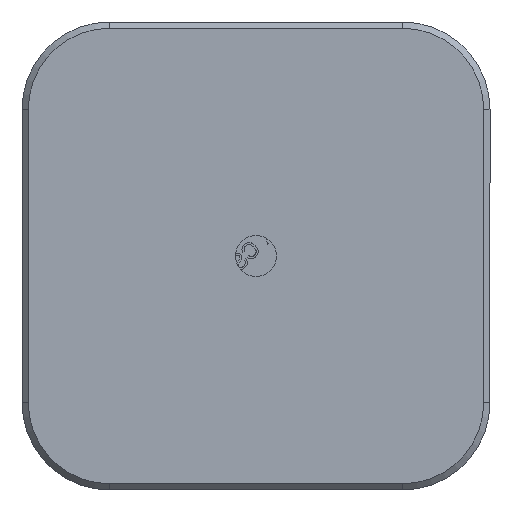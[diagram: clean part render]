
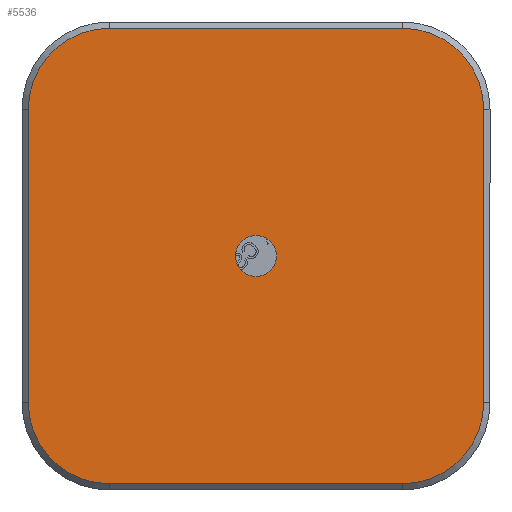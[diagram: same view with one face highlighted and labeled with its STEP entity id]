
A CAD part, front view. The second image highlights one B-rep face of the part: STEP entity #5536.
In plain terms, the highlighted planar face has unit normal (0, -1, 0).
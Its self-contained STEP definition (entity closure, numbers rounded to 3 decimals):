
#359 = CIRCLE ( 'NONE', #1858, 6.5 ) ;
#643 = EDGE_LOOP ( 'NONE', ( #1578, #1995, #6729, #5542, #2850, #13208, #7609, #3370 ) ) ;
#665 = CARTESIAN_POINT ( 'NONE',  ( 11.75, 0., 18.25 ) ) ;
#781 = DIRECTION ( 'NONE',  ( 0., 0., 1. ) ) ;
#810 = DIRECTION ( 'NONE',  ( 0., -1., 0. ) ) ;
#947 = CARTESIAN_POINT ( 'NONE',  ( -18.25, 0., 11.75 ) ) ;
#1578 = ORIENTED_EDGE ( 'NONE', *, *, #8722, .T. ) ;
#1678 = DIRECTION ( 'NONE',  ( 0., 0., 1. ) ) ;
#1858 = AXIS2_PLACEMENT_3D ( 'NONE', #3759, #12203, #1678 ) ;
#1910 = CARTESIAN_POINT ( 'NONE',  ( -11.75, 0., 11.75 ) ) ;
#1995 = ORIENTED_EDGE ( 'NONE', *, *, #7233, .T. ) ;
#2139 = EDGE_CURVE ( 'NONE', #5934, #12571, #5496, .T. ) ;
#2452 = DIRECTION ( 'NONE',  ( 0., 0., -1. ) ) ;
#2640 = PLANE ( 'NONE',  #10601 ) ;
#2730 = CARTESIAN_POINT ( 'NONE',  ( -11.75, 0., 18.25 ) ) ;
#2850 = ORIENTED_EDGE ( 'NONE', *, *, #4350, .T. ) ;
#2956 = LINE ( 'NONE', #11334, #10848 ) ;
#3139 = EDGE_CURVE ( 'NONE', #5554, #9483, #6946, .T. ) ;
#3370 = ORIENTED_EDGE ( 'NONE', *, *, #3139, .T. ) ;
#3759 = CARTESIAN_POINT ( 'NONE',  ( 11.75, 0., -11.75 ) ) ;
#3808 = VERTEX_POINT ( 'NONE', #7734 ) ;
#3887 = DIRECTION ( 'NONE',  ( 1., 0., 0. ) ) ;
#4031 = DIRECTION ( 'NONE',  ( -1., 0., 0. ) ) ;
#4083 = LINE ( 'NONE', #8199, #5701 ) ;
#4229 = CIRCLE ( 'NONE', #11772, 6.5 ) ;
#4350 = EDGE_CURVE ( 'NONE', #12571, #8653, #9939, .T. ) ;
#4559 = DIRECTION ( 'NONE',  ( 0., -1., 0. ) ) ;
#4634 = CARTESIAN_POINT ( 'NONE',  ( 0., 0., 0. ) ) ;
#4796 = DIRECTION ( 'NONE',  ( 0., 0., 1. ) ) ;
#4802 = VERTEX_POINT ( 'NONE', #665 ) ;
#5460 = CIRCLE ( 'NONE', #10880, 6.5 ) ;
#5496 = LINE ( 'NONE', #9540, #7745 ) ;
#5536 = ADVANCED_FACE ( 'NONE', ( #7760, #11892 ), #2640, .T. ) ;
#5542 = ORIENTED_EDGE ( 'NONE', *, *, #2139, .T. ) ;
#5554 = VERTEX_POINT ( 'NONE', #10392 ) ;
#5619 = DIRECTION ( 'NONE',  ( 0., -1., 0. ) ) ;
#5689 = CIRCLE ( 'NONE', #5895, 1.65 ) ;
#5701 = VECTOR ( 'NONE', #3887, 1000. ) ;
#5895 = AXIS2_PLACEMENT_3D ( 'NONE', #4634, #810, #13017 ) ;
#5934 = VERTEX_POINT ( 'NONE', #947 ) ;
#6012 = CARTESIAN_POINT ( 'NONE',  ( 18.25, 0., 11.75 ) ) ;
#6270 = VECTOR ( 'NONE', #4796, 1000. ) ;
#6729 = ORIENTED_EDGE ( 'NONE', *, *, #12526, .T. ) ;
#6751 = CARTESIAN_POINT ( 'NONE',  ( 0., 0., 0. ) ) ;
#6835 = DIRECTION ( 'NONE',  ( 0., -1., 0. ) ) ;
#6902 = CARTESIAN_POINT ( 'NONE',  ( 0., 0., -1.65 ) ) ;
#6946 = LINE ( 'NONE', #6012, #6270 ) ;
#7210 = CARTESIAN_POINT ( 'NONE',  ( 0., 0., 0. ) ) ;
#7233 = EDGE_CURVE ( 'NONE', #4802, #11831, #2956, .T. ) ;
#7500 = CARTESIAN_POINT ( 'NONE',  ( 11.75, 0., -18.25 ) ) ;
#7609 = ORIENTED_EDGE ( 'NONE', *, *, #11525, .T. ) ;
#7624 = DIRECTION ( 'NONE',  ( 0., 0., 1. ) ) ;
#7734 = CARTESIAN_POINT ( 'NONE',  ( 0., 0., 1.65 ) ) ;
#7745 = VECTOR ( 'NONE', #2452, 1000. ) ;
#7760 = FACE_OUTER_BOUND ( 'NONE', #643, .T. ) ;
#7836 = DIRECTION ( 'NONE',  ( 0., 0., 1. ) ) ;
#8199 = CARTESIAN_POINT ( 'NONE',  ( 11.75, 0., -18.25 ) ) ;
#8212 = EDGE_CURVE ( 'NONE', #12412, #3808, #9577, .T. ) ;
#8322 = CARTESIAN_POINT ( 'NONE',  ( -11.75, 0., -11.75 ) ) ;
#8600 = DIRECTION ( 'NONE',  ( 0., 0., 1. ) ) ;
#8653 = VERTEX_POINT ( 'NONE', #12648 ) ;
#8719 = CARTESIAN_POINT ( 'NONE',  ( 11.75, 0., 11.75 ) ) ;
#8722 = EDGE_CURVE ( 'NONE', #9483, #4802, #5460, .T. ) ;
#8790 = DIRECTION ( 'NONE',  ( 0., 0., 1. ) ) ;
#8801 = CARTESIAN_POINT ( 'NONE',  ( 18.25, 0., 11.75 ) ) ;
#9131 = DIRECTION ( 'NONE',  ( 0., -1., 0. ) ) ;
#9216 = EDGE_CURVE ( 'NONE', #3808, #12412, #5689, .T. ) ;
#9483 = VERTEX_POINT ( 'NONE', #8801 ) ;
#9540 = CARTESIAN_POINT ( 'NONE',  ( -18.25, 0., -11.75 ) ) ;
#9577 = CIRCLE ( 'NONE', #10009, 1.65 ) ;
#9799 = ORIENTED_EDGE ( 'NONE', *, *, #8212, .F. ) ;
#9939 = CIRCLE ( 'NONE', #11248, 6.5 ) ;
#10009 = AXIS2_PLACEMENT_3D ( 'NONE', #7210, #4559, #8600 ) ;
#10284 = EDGE_CURVE ( 'NONE', #8653, #10411, #4083, .T. ) ;
#10392 = CARTESIAN_POINT ( 'NONE',  ( 18.25, 0., -11.75 ) ) ;
#10411 = VERTEX_POINT ( 'NONE', #7500 ) ;
#10601 = AXIS2_PLACEMENT_3D ( 'NONE', #6751, #10953, #7836 ) ;
#10848 = VECTOR ( 'NONE', #4031, 1000. ) ;
#10880 = AXIS2_PLACEMENT_3D ( 'NONE', #8719, #6835, #8790 ) ;
#10892 = ORIENTED_EDGE ( 'NONE', *, *, #9216, .F. ) ;
#10953 = DIRECTION ( 'NONE',  ( 0., -1., 0. ) ) ;
#11160 = CARTESIAN_POINT ( 'NONE',  ( -18.25, 0., -11.75 ) ) ;
#11248 = AXIS2_PLACEMENT_3D ( 'NONE', #8322, #5619, #7624 ) ;
#11334 = CARTESIAN_POINT ( 'NONE',  ( -11.75, 0., 18.25 ) ) ;
#11525 = EDGE_CURVE ( 'NONE', #10411, #5554, #359, .T. ) ;
#11772 = AXIS2_PLACEMENT_3D ( 'NONE', #1910, #9131, #781 ) ;
#11786 = EDGE_LOOP ( 'NONE', ( #10892, #9799 ) ) ;
#11831 = VERTEX_POINT ( 'NONE', #2730 ) ;
#11892 = FACE_BOUND ( 'NONE', #11786, .T. ) ;
#12203 = DIRECTION ( 'NONE',  ( 0., -1., 0. ) ) ;
#12412 = VERTEX_POINT ( 'NONE', #6902 ) ;
#12526 = EDGE_CURVE ( 'NONE', #11831, #5934, #4229, .T. ) ;
#12571 = VERTEX_POINT ( 'NONE', #11160 ) ;
#12648 = CARTESIAN_POINT ( 'NONE',  ( -11.75, 0., -18.25 ) ) ;
#13017 = DIRECTION ( 'NONE',  ( 0., 0., 1. ) ) ;
#13208 = ORIENTED_EDGE ( 'NONE', *, *, #10284, .T. ) ;
